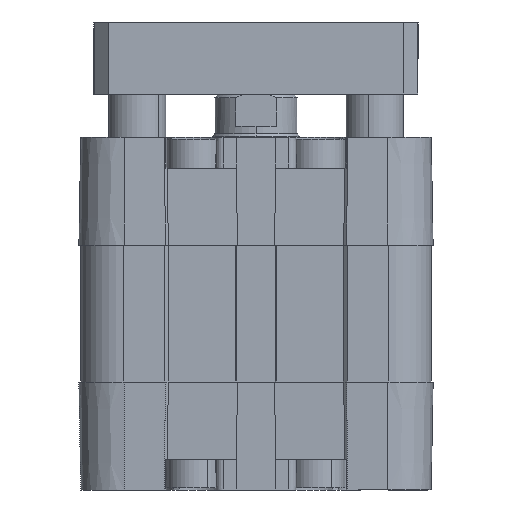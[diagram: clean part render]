
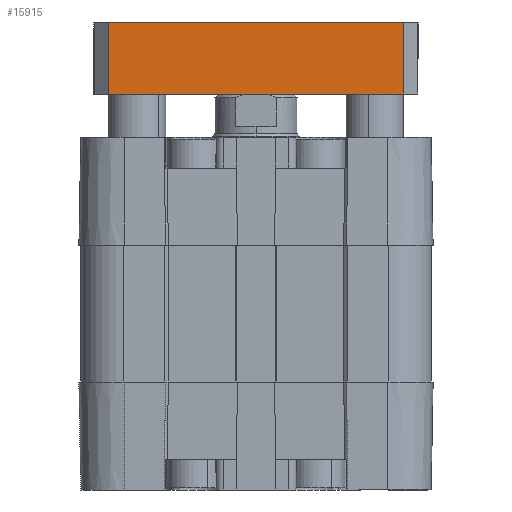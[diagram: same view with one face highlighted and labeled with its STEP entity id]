
A CAD part, left-side view. The second image highlights one B-rep face of the part: STEP entity #15915.
In plain terms, the highlighted planar face has unit normal (-1, 0, 0) as drawn and (1, 0, 0) by its records, which use the part's own axes.
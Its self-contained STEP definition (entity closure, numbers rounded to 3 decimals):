
#15830 = EDGE_CURVE ( 'NONE', #15919, #15911, #38764, .T. ) ;
#15837 = ORIENTED_EDGE ( 'NONE', *, *, #15830, .T. ) ;
#15841 = ORIENTED_EDGE ( 'NONE', *, *, #16890, .T. ) ;
#15909 = EDGE_LOOP ( 'NONE', ( #15916, #15912, #15841, #15837 ) ) ;
#15910 = VERTEX_POINT ( 'NONE', #26887 ) ;
#15911 = VERTEX_POINT ( 'NONE', #26886 ) ;
#15912 = ORIENTED_EDGE ( 'NONE', *, *, #15913, .T. ) ;
#15913 = EDGE_CURVE ( 'NONE', #15910, #15914, #26885, .T. ) ;
#15914 = VERTEX_POINT ( 'NONE', #26951 ) ;
#15915 = ADVANCED_FACE ( 'NONE', ( #26950 ), #26949, .F. ) ;
#15916 = ORIENTED_EDGE ( 'NONE', *, *, #15917, .F. ) ;
#15917 = EDGE_CURVE ( 'NONE', #15910, #15911, #26943, .T. ) ;
#15919 = VERTEX_POINT ( 'NONE', #26939 ) ;
#16890 = EDGE_CURVE ( 'NONE', #15914, #15919, #28400, .T. ) ;
#26883 = VECTOR ( 'NONE', #26952, 1000. ) ;
#26884 = CARTESIAN_POINT ( 'NONE',  ( 22.5, -20.5, 10. ) ) ;
#26885 = LINE ( 'NONE', #26884, #26883 ) ;
#26886 = CARTESIAN_POINT ( 'NONE',  ( 22.5, 20.5, 10. ) ) ;
#26887 = CARTESIAN_POINT ( 'NONE',  ( 22.5, -20.5, 10. ) ) ;
#26939 = CARTESIAN_POINT ( 'NONE',  ( 22.5, 20.5, 0. ) ) ;
#26940 = DIRECTION ( 'NONE',  ( 0., 1., 0. ) ) ;
#26941 = VECTOR ( 'NONE', #26940, 1000. ) ;
#26942 = CARTESIAN_POINT ( 'NONE',  ( 22.5, -22.5, 10. ) ) ;
#26943 = LINE ( 'NONE', #26942, #26941 ) ;
#26945 = DIRECTION ( 'NONE',  ( 0., 0., 1. ) ) ;
#26946 = DIRECTION ( 'NONE',  ( -1., 0., 0. ) ) ;
#26947 = CARTESIAN_POINT ( 'NONE',  ( 22.5, -22.5, 10. ) ) ;
#26948 = AXIS2_PLACEMENT_3D ( 'NONE', #26947, #26946, #26945 ) ;
#26949 = PLANE ( 'NONE',  #26948 ) ;
#26950 = FACE_OUTER_BOUND ( 'NONE', #15909, .T. ) ;
#26951 = CARTESIAN_POINT ( 'NONE',  ( 22.5, -20.5, 0. ) ) ;
#26952 = DIRECTION ( 'NONE',  ( 0., 0., -1. ) ) ;
#28397 = DIRECTION ( 'NONE',  ( 0., 1., 0. ) ) ;
#28398 = VECTOR ( 'NONE', #28397, 1000. ) ;
#28399 = CARTESIAN_POINT ( 'NONE',  ( 22.5, -22.5, 0. ) ) ;
#28400 = LINE ( 'NONE', #28399, #28398 ) ;
#38758 = DIRECTION ( 'NONE',  ( 0., 0., 1. ) ) ;
#38759 = VECTOR ( 'NONE', #38758, 1000. ) ;
#38760 = CARTESIAN_POINT ( 'NONE',  ( 22.5, 20.5, 10. ) ) ;
#38764 = LINE ( 'NONE', #38760, #38759 ) ;
